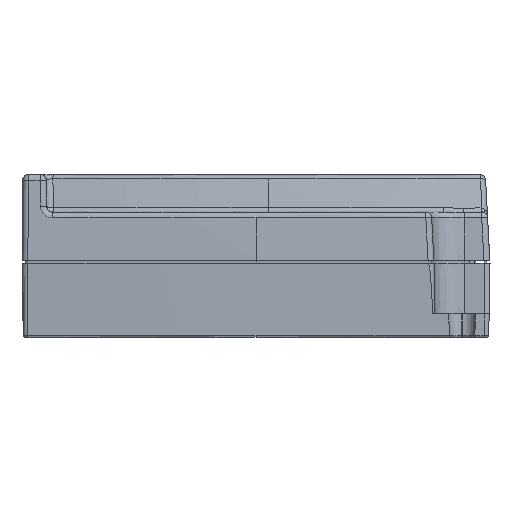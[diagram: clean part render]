
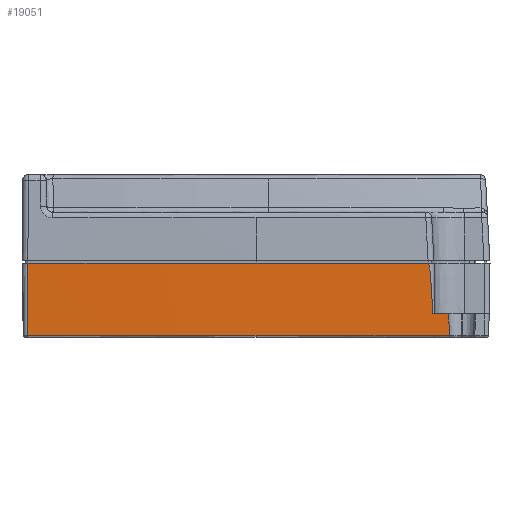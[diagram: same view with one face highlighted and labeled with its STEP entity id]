
A CAD part, left-side view. The second image highlights one B-rep face of the part: STEP entity #19051.
In plain terms, the highlighted conical face has half-angle 1 degrees and reference radius 1499.79 mm.
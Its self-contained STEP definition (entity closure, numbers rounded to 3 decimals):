
#254 = DIRECTION ( 'NONE',  ( 0., 0., 1. ) ) ;
#283 = CIRCLE ( 'NONE', #20679, 1499.787 ) ;
#302 = ORIENTED_EDGE ( 'NONE', *, *, #23752, .F. ) ;
#368 = DIRECTION ( 'NONE',  ( 1., 0., 0. ) ) ;
#1671 = CARTESIAN_POINT ( 'NONE',  ( -25.887, 40.732, 92.243 ) ) ;
#1725 = LINE ( 'NONE', #2001, #6931 ) ;
#1757 = CARTESIAN_POINT ( 'NONE',  ( -25.872, 40.558, 91.577 ) ) ;
#1784 = B_SPLINE_CURVE_WITH_KNOTS ( 'NONE', 3,
 ( #10382, #1671, #8281, #23650, #10469, #25859, #12692, #28067, #14877, #1757, #17090, #3986, #19285, #6192, #21519, #8367, #23743, #10573 ),
 .UNSPECIFIED., .F., .F.,
 ( 4, 2, 2, 2, 2, 2, 2, 2, 4 ),
 ( 0., 0., 0., 0., 0.001, 0.001, 0.002, 0.004, 0.009 ),
 .UNSPECIFIED. ) ;
#2001 = CARTESIAN_POINT ( 'NONE',  ( -25.569, 108.373, 86.156 ) ) ;
#2059 = ORIENTED_EDGE ( 'NONE', *, *, #21891, .F. ) ;
#2366 = CARTESIAN_POINT ( 'NONE',  ( -25.624, 37.231, 81.302 ) ) ;
#2510 = DIRECTION ( 'NONE',  ( 0., 0., 1. ) ) ;
#3038 = CIRCLE ( 'NONE', #22875, 1499.852 ) ;
#3632 = DIRECTION ( 'NONE',  ( 0., 0., 1. ) ) ;
#3709 = CARTESIAN_POINT ( 'NONE',  ( -25.601, 37.167, 80.074 ) ) ;
#3986 = CARTESIAN_POINT ( 'NONE',  ( -25.858, 40.465, 90.87 ) ) ;
#4369 = CARTESIAN_POINT ( 'NONE',  ( -25.601, 37.167, 80.074 ) ) ;
#4474 = ORIENTED_EDGE ( 'NONE', *, *, #7411, .F. ) ;
#5759 = DIRECTION ( 'NONE',  ( 0., 0., -1. ) ) ;
#5940 = CARTESIAN_POINT ( 'NONE',  ( 1473.83, 69.85, 80.053 ) ) ;
#6044 = AXIS2_PLACEMENT_3D ( 'NONE', #16732, #3632, #18936 ) ;
#6099 = AXIS2_PLACEMENT_3D ( 'NONE', #13507, #2510, #368 ) ;
#6192 = CARTESIAN_POINT ( 'NONE',  ( -25.831, 40.333, 89.451 ) ) ;
#6242 = B_SPLINE_CURVE_WITH_KNOTS ( 'NONE', 3,
 ( #28458, #19577, #17472, #4369 ),
 .UNSPECIFIED., .F., .F.,
 ( 4, 4 ),
 ( 0., 0. ),
 .UNSPECIFIED. ) ;
#6612 = CIRCLE ( 'NONE', #6044, 1500. ) ;
#6705 = VERTEX_POINT ( 'NONE', #17828 ) ;
#6931 = VECTOR ( 'NONE', #19843, 1000. ) ;
#7411 = EDGE_CURVE ( 'NONE', #12315, #6705, #6612, .T. ) ;
#8096 = ORIENTED_EDGE ( 'NONE', *, *, #23002, .F. ) ;
#8125 = DIRECTION ( 'NONE',  ( -1., 0., 0. ) ) ;
#8196 = EDGE_CURVE ( 'NONE', #25142, #21345, #6242, .T. ) ;
#8281 = CARTESIAN_POINT ( 'NONE',  ( -25.887, 40.721, 92.223 ) ) ;
#8367 = CARTESIAN_POINT ( 'NONE',  ( -25.777, 40.147, 86.606 ) ) ;
#8527 = EDGE_CURVE ( 'NONE', #12315, #20116, #1725, .T. ) ;
#8780 = ORIENTED_EDGE ( 'NONE', *, *, #18170, .F. ) ;
#9461 = B_SPLINE_CURVE_WITH_KNOTS ( 'NONE', 3,
 ( #13265, #15477, #2366, #17676 ),
 .UNSPECIFIED., .F., .F.,
 ( 4, 4 ),
 ( 0., 1. ),
 .UNSPECIFIED. ) ;
#10382 = CARTESIAN_POINT ( 'NONE',  ( -25.888, 40.75, 92.258 ) ) ;
#10469 = CARTESIAN_POINT ( 'NONE',  ( -25.885, 40.693, 92.162 ) ) ;
#10573 = CARTESIAN_POINT ( 'NONE',  ( -25.725, 40.013, 83.758 ) ) ;
#12315 = VERTEX_POINT ( 'NONE', #28161 ) ;
#12692 = CARTESIAN_POINT ( 'NONE',  ( -25.882, 40.658, 92.057 ) ) ;
#13265 = CARTESIAN_POINT ( 'NONE',  ( -25.67, 37.36, 83.758 ) ) ;
#13400 = CARTESIAN_POINT ( 'NONE',  ( 1473.83, 69.85, 83.758 ) ) ;
#13507 = CARTESIAN_POINT ( 'NONE',  ( 1473.83, 69.85, 80.053 ) ) ;
#13989 = ORIENTED_EDGE ( 'NONE', *, *, #26886, .F. ) ;
#14877 = CARTESIAN_POINT ( 'NONE',  ( -25.878, 40.606, 91.84 ) ) ;
#14970 = CARTESIAN_POINT ( 'NONE',  ( -25.725, 40.013, 83.758 ) ) ;
#14977 = ORIENTED_EDGE ( 'NONE', *, *, #8527, .T. ) ;
#15477 = CARTESIAN_POINT ( 'NONE',  ( -25.647, 37.295, 82.53 ) ) ;
#15592 = DIRECTION ( 'NONE',  ( 1., 0., 0. ) ) ;
#16732 = CARTESIAN_POINT ( 'NONE',  ( 1473.83, 69.85, 92.258 ) ) ;
#17090 = CARTESIAN_POINT ( 'NONE',  ( -25.869, 40.533, 91.4 ) ) ;
#17200 = CIRCLE ( 'NONE', #19441, 1499.787 ) ;
#17405 = CARTESIAN_POINT ( 'NONE',  ( -25.957, 69.85, 80.053 ) ) ;
#17472 = CARTESIAN_POINT ( 'NONE',  ( -25.601, 37.166, 80.067 ) ) ;
#17676 = CARTESIAN_POINT ( 'NONE',  ( -25.601, 37.167, 80.074 ) ) ;
#17828 = CARTESIAN_POINT ( 'NONE',  ( -25.888, 40.75, 92.258 ) ) ;
#17880 = VERTEX_POINT ( 'NONE', #17405 ) ;
#18170 = EDGE_CURVE ( 'NONE', #6705, #20120, #1784, .T. ) ;
#18866 = CARTESIAN_POINT ( 'NONE',  ( 1473.83, 69.85, 80.053 ) ) ;
#18871 = CONICAL_SURFACE ( 'NONE', #6099, 1499.787, 0.017 ) ;
#18936 = DIRECTION ( 'NONE',  ( 1., 0., 0. ) ) ;
#19051 = ADVANCED_FACE ( 'NONE', ( #19569 ), #18871, .T. ) ;
#19285 = CARTESIAN_POINT ( 'NONE',  ( -25.851, 40.43, 90.515 ) ) ;
#19441 = AXIS2_PLACEMENT_3D ( 'NONE', #18866, #5759, #21089 ) ;
#19569 = FACE_OUTER_BOUND ( 'NONE', #22169, .T. ) ;
#19577 = CARTESIAN_POINT ( 'NONE',  ( -25.601, 37.166, 80.061 ) ) ;
#19843 = DIRECTION ( 'NONE',  ( 0.017, 0., -1. ) ) ;
#20116 = VERTEX_POINT ( 'NONE', #28173 ) ;
#20120 = VERTEX_POINT ( 'NONE', #14970 ) ;
#20679 = AXIS2_PLACEMENT_3D ( 'NONE', #5940, #21284, #8125 ) ;
#21089 = DIRECTION ( 'NONE',  ( 1., 0., 0. ) ) ;
#21284 = DIRECTION ( 'NONE',  ( 0., 0., -1. ) ) ;
#21345 = VERTEX_POINT ( 'NONE', #3709 ) ;
#21519 = CARTESIAN_POINT ( 'NONE',  ( -25.817, 40.283, 88.74 ) ) ;
#21891 = EDGE_CURVE ( 'NONE', #20120, #22355, #3038, .T. ) ;
#22015 = CARTESIAN_POINT ( 'NONE',  ( -25.67, 37.36, 83.758 ) ) ;
#22169 = EDGE_LOOP ( 'NONE', ( #14977, #8096, #13989, #24352, #302, #2059, #8780, #4474 ) ) ;
#22355 = VERTEX_POINT ( 'NONE', #22015 ) ;
#22875 = AXIS2_PLACEMENT_3D ( 'NONE', #13400, #254, #15592 ) ;
#22965 = CARTESIAN_POINT ( 'NONE',  ( -25.601, 37.166, 80.054 ) ) ;
#23002 = EDGE_CURVE ( 'NONE', #17880, #20116, #283, .T. ) ;
#23650 = CARTESIAN_POINT ( 'NONE',  ( -25.885, 40.701, 92.183 ) ) ;
#23743 = CARTESIAN_POINT ( 'NONE',  ( -25.751, 40.077, 85.182 ) ) ;
#23752 = EDGE_CURVE ( 'NONE', #22355, #21345, #9461, .T. ) ;
#24352 = ORIENTED_EDGE ( 'NONE', *, *, #8196, .T. ) ;
#25142 = VERTEX_POINT ( 'NONE', #22965 ) ;
#25859 = CARTESIAN_POINT ( 'NONE',  ( -25.883, 40.67, 92.1 ) ) ;
#26886 = EDGE_CURVE ( 'NONE', #25142, #17880, #17200, .T. ) ;
#28067 = CARTESIAN_POINT ( 'NONE',  ( -25.879, 40.624, 91.927 ) ) ;
#28161 = CARTESIAN_POINT ( 'NONE',  ( -25.675, 108.376, 92.258 ) ) ;
#28173 = CARTESIAN_POINT ( 'NONE',  ( -25.462, 108.37, 80.053 ) ) ;
#28458 = CARTESIAN_POINT ( 'NONE',  ( -25.601, 37.166, 80.054 ) ) ;
